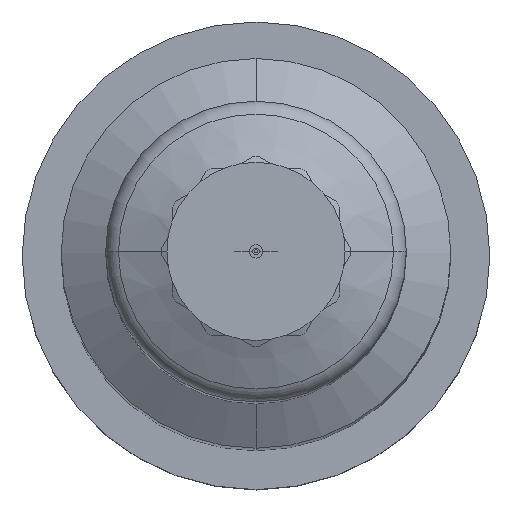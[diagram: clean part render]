
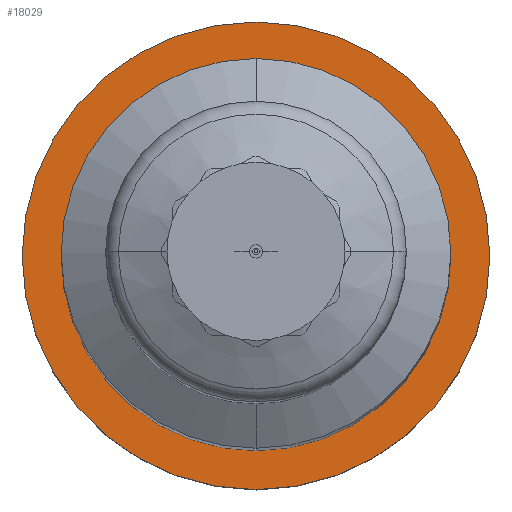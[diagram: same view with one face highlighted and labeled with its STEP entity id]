
A CAD part, top view. The second image highlights one B-rep face of the part: STEP entity #18029.
In plain terms, the highlighted planar face has unit normal (0, 0, 1).
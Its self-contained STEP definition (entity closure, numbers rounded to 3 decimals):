
#812 = AXIS2_PLACEMENT_3D ( 'NONE', #22894, #10415, #27082 ) ;
#1577 = ORIENTED_EDGE ( 'NONE', *, *, #3430, .F. ) ;
#3430 = EDGE_CURVE ( 'NONE', #18051, #5883, #9128, .T. ) ;
#3643 = CARTESIAN_POINT ( 'NONE',  ( 0., 0., 15. ) ) ;
#4194 = CIRCLE ( 'NONE', #23675, 21. ) ;
#5104 = AXIS2_PLACEMENT_3D ( 'NONE', #9087, #23771, #7164 ) ;
#5883 = VERTEX_POINT ( 'NONE', #25403 ) ;
#6569 = CARTESIAN_POINT ( 'NONE',  ( 0., -17.5, 15. ) ) ;
#7164 = DIRECTION ( 'NONE',  ( -1., 0., 0. ) ) ;
#7627 = DIRECTION ( 'NONE',  ( 0., 0., -1. ) ) ;
#8779 = EDGE_CURVE ( 'NONE', #5883, #18051, #9391, .T. ) ;
#8905 = EDGE_LOOP ( 'NONE', ( #18011, #1577 ) ) ;
#9087 = CARTESIAN_POINT ( 'NONE',  ( 0., 0., 15. ) ) ;
#9128 = CIRCLE ( 'NONE', #5104, 17.5 ) ;
#9391 = CIRCLE ( 'NONE', #12367, 17.5 ) ;
#9421 = VERTEX_POINT ( 'NONE', #14451 ) ;
#9732 = EDGE_CURVE ( 'NONE', #13653, #9421, #4194, .T. ) ;
#9959 = CIRCLE ( 'NONE', #812, 21. ) ;
#10064 = AXIS2_PLACEMENT_3D ( 'NONE', #14998, #25735, #19145 ) ;
#10415 = DIRECTION ( 'NONE',  ( 0., 0., -1. ) ) ;
#10917 = EDGE_CURVE ( 'NONE', #9421, #13653, #9959, .T. ) ;
#12367 = AXIS2_PLACEMENT_3D ( 'NONE', #25288, #12714, #14836 ) ;
#12714 = DIRECTION ( 'NONE',  ( 0., 0., 1. ) ) ;
#13653 = VERTEX_POINT ( 'NONE', #25454 ) ;
#14451 = CARTESIAN_POINT ( 'NONE',  ( -21., 0., 15. ) ) ;
#14836 = DIRECTION ( 'NONE',  ( -1., 0., 0. ) ) ;
#14998 = CARTESIAN_POINT ( 'NONE',  ( 13.5, 0., 15. ) ) ;
#18011 = ORIENTED_EDGE ( 'NONE', *, *, #8779, .F. ) ;
#18029 = ADVANCED_FACE ( 'NONE', ( #25965, #26628 ), #25641, .T. ) ;
#18051 = VERTEX_POINT ( 'NONE', #6569 ) ;
#18074 = DIRECTION ( 'NONE',  ( 1., 0., 0. ) ) ;
#19106 = ORIENTED_EDGE ( 'NONE', *, *, #9732, .F. ) ;
#19145 = DIRECTION ( 'NONE',  ( -1., 0., 0. ) ) ;
#22894 = CARTESIAN_POINT ( 'NONE',  ( 0., 0., 15. ) ) ;
#23675 = AXIS2_PLACEMENT_3D ( 'NONE', #3643, #7627, #18074 ) ;
#23771 = DIRECTION ( 'NONE',  ( 0., 0., 1. ) ) ;
#25288 = CARTESIAN_POINT ( 'NONE',  ( 0., 0., 15. ) ) ;
#25403 = CARTESIAN_POINT ( 'NONE',  ( 0., 17.5, 15. ) ) ;
#25454 = CARTESIAN_POINT ( 'NONE',  ( 21., 0., 15. ) ) ;
#25641 = PLANE ( 'NONE',  #10064 ) ;
#25735 = DIRECTION ( 'NONE',  ( 0., 0., 1. ) ) ;
#25914 = ORIENTED_EDGE ( 'NONE', *, *, #10917, .F. ) ;
#25965 = FACE_BOUND ( 'NONE', #8905, .T. ) ;
#26628 = FACE_OUTER_BOUND ( 'NONE', #26924, .T. ) ;
#26924 = EDGE_LOOP ( 'NONE', ( #19106, #25914 ) ) ;
#27082 = DIRECTION ( 'NONE',  ( 1., 0., 0. ) ) ;
